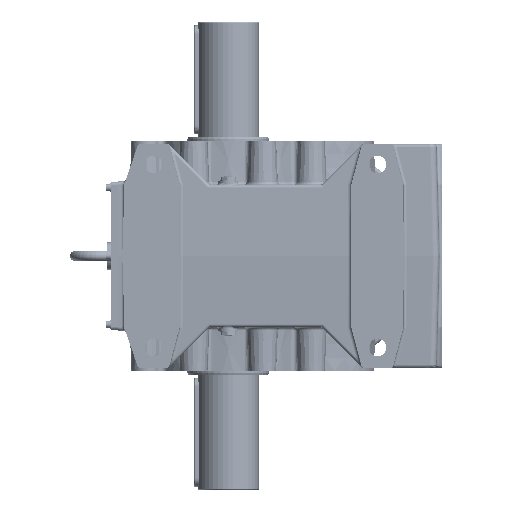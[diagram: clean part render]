
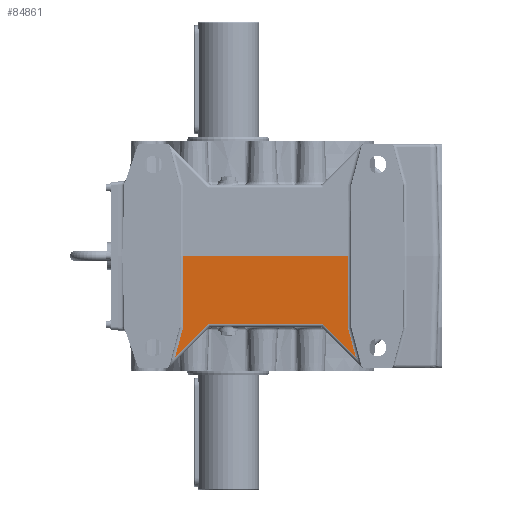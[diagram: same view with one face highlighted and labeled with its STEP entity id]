
A CAD part, left-side view. The second image highlights one B-rep face of the part: STEP entity #84861.
In plain terms, the highlighted planar face has unit normal (-1, 0, -0.026).
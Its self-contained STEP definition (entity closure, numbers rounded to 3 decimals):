
#60470=CARTESIAN_POINT('',(-192.128,-139.571,-100.131));
#60471=VERTEX_POINT('',#60470);
#60479=CARTESIAN_POINT('',(-192.128,29.571,-100.131));
#60480=VERTEX_POINT('',#60479);
#60481=CARTESIAN_POINT('',(-192.128,-139.571,-100.131));
#60482=DIRECTION('',(0.0,1.0,0.0));
#60483=VECTOR('',#60482,169.142);
#60484=LINE('',#60481,#60483);
#60485=EDGE_CURVE('',#60471,#60480,#60484,.T.);
#66865=CARTESIAN_POINT('',(-191.986,66.5,-105.524));
#66866=VERTEX_POINT('',#66865);
#66891=CARTESIAN_POINT('',(-194.75,66.5,0.0));
#66892=VERTEX_POINT('',#66891);
#66893=CARTESIAN_POINT('',(-191.986,66.5,-105.524));
#66894=DIRECTION('',(-0.026,0.0,1.));
#66895=VECTOR('',#66894,105.561);
#66896=LINE('',#66893,#66895);
#66897=EDGE_CURVE('',#66866,#66892,#66896,.T.);
#66924=CARTESIAN_POINT('',(-190.86,77.967,-148.527));
#66925=VERTEX_POINT('',#66924);
#66933=CARTESIAN_POINT('',(-190.86,77.967,-148.527));
#66934=DIRECTION('',(-0.025,-0.258,0.966));
#66935=VECTOR('',#66934,44.52);
#66936=LINE('',#66933,#66935);
#66937=EDGE_CURVE('',#66925,#66866,#66936,.T.);
#67391=CARTESIAN_POINT('',(-191.986,-176.5,-105.524));
#67392=VERTEX_POINT('',#67391);
#67486=CARTESIAN_POINT('',(-190.86,-187.967,-148.527));
#67487=VERTEX_POINT('',#67486);
#67488=CARTESIAN_POINT('',(-191.986,-176.5,-105.524));
#67489=DIRECTION('',(0.025,-0.258,-0.966));
#67490=VECTOR('',#67489,44.52);
#67491=LINE('',#67488,#67490);
#67492=EDGE_CURVE('',#67392,#67487,#67491,.T.);
#68934=CARTESIAN_POINT('',(-194.75,-176.5,0.0));
#68935=VERTEX_POINT('',#68934);
#68943=CARTESIAN_POINT('',(-194.75,-176.5,0.));
#68944=DIRECTION('',(0.026,0.0,-1.));
#68945=VECTOR('',#68944,105.561);
#68946=LINE('',#68943,#68945);
#68947=EDGE_CURVE('',#68935,#67392,#68946,.T.);
#70904=CARTESIAN_POINT('',(-190.86,-187.967,-148.527));
#70905=DIRECTION('',(-0.019,0.707,0.707));
#70906=VECTOR('',#70905,68.455);
#70907=LINE('',#70904,#70906);
#70908=EDGE_CURVE('',#67487,#60471,#70907,.T.);
#71081=CARTESIAN_POINT('',(-192.128,29.571,-100.131));
#71082=DIRECTION('',(0.019,0.707,-0.707));
#71083=VECTOR('',#71082,68.455);
#71084=LINE('',#71081,#71083);
#71085=EDGE_CURVE('',#60480,#66925,#71084,.T.);
#84815=CARTESIAN_POINT('',(-194.75,66.5,0.0));
#84816=DIRECTION('',(0.0,-1.0,0.0));
#84817=VECTOR('',#84816,243.0);
#84818=LINE('',#84815,#84817);
#84819=EDGE_CURVE('',#66892,#68935,#84818,.T.);
#84846=CARTESIAN_POINT('',(-194.749,-307.0,-0.036));
#84847=DIRECTION('',(1.,0.,0.026));
#84848=DIRECTION('',(0.026,0.,-1.));
#84849=AXIS2_PLACEMENT_3D('',#84846,#84847,#84848);
#84850=PLANE('',#84849);
#84851=ORIENTED_EDGE('',*,*,#66937,.F.);
#84852=ORIENTED_EDGE('',*,*,#71085,.F.);
#84853=ORIENTED_EDGE('',*,*,#60485,.F.);
#84854=ORIENTED_EDGE('',*,*,#70908,.F.);
#84855=ORIENTED_EDGE('',*,*,#67492,.F.);
#84856=ORIENTED_EDGE('',*,*,#68947,.F.);
#84857=ORIENTED_EDGE('',*,*,#84819,.F.);
#84858=ORIENTED_EDGE('',*,*,#66897,.F.);
#84859=EDGE_LOOP('',(#84851,#84852,#84853,#84854,#84855,#84856,#84857,#84858));
#84860=FACE_OUTER_BOUND('',#84859,.T.);
#84861=ADVANCED_FACE('',(#84860),#84850,.F.);
